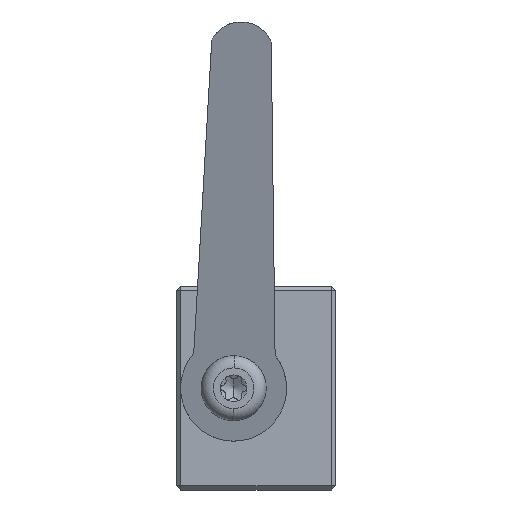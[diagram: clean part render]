
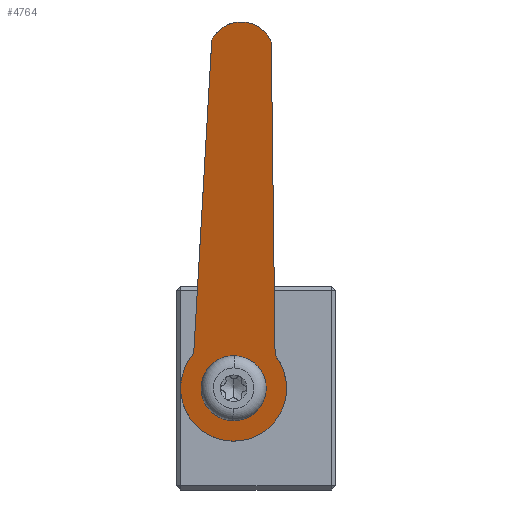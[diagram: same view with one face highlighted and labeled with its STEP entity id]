
A CAD part, left-side view. The second image highlights one B-rep face of the part: STEP entity #4764.
In plain terms, the highlighted planar face has unit normal (-0.966, 0.006, -0.259).
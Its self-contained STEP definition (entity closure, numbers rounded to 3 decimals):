
#2 = CARTESIAN_POINT ( 'NONE',  ( 568.389, 874.78, 1329.316 ) ) ;
#23 =( BOUNDED_CURVE ( )  B_SPLINE_CURVE ( 3, ( #4123, #2109, #1694, #567 ),
 .UNSPECIFIED., .F., .T. ) 
 B_SPLINE_CURVE_WITH_KNOTS ( ( 4, 4 ),
 ( 4.019, 4.712 ),
 .UNSPECIFIED. ) 
 CURVE ( )  GEOMETRIC_REPRESENTATION_ITEM ( )  RATIONAL_B_SPLINE_CURVE ( ( 1., 0.96, 0.96, 1. ) ) 
 REPRESENTATION_ITEM ( '' )  );
#153 = VERTEX_POINT ( 'NONE', #1469 ) ;
#196 = ORIENTED_EDGE ( 'NONE', *, *, #2717, .T. ) ;
#198 = VERTEX_POINT ( 'NONE', #3724 ) ;
#226 = CARTESIAN_POINT ( 'NONE',  ( 578.753, 871.353, 1290.55 ) ) ;
#418 = CARTESIAN_POINT ( 'NONE',  ( 578.739, 872.004, 1290.619 ) ) ;
#421 = AXIS2_PLACEMENT_3D ( 'NONE', #2111, #4925, #2534 ) ;
#443 = ORIENTED_EDGE ( 'NONE', *, *, #3854, .T. ) ;
#535 = CARTESIAN_POINT ( 'NONE',  ( 578.743, 871.569, 1290.591 ) ) ;
#567 = CARTESIAN_POINT ( 'NONE',  ( 579.811, 878.593, 1286.768 ) ) ;
#762 = CARTESIAN_POINT ( 'NONE',  ( 579.811, 878.593, 1286.768 ) ) ;
#768 = CARTESIAN_POINT ( 'NONE',  ( 579.811, 865.596, 1286.472 ) ) ;
#1028 = CARTESIAN_POINT ( 'NONE',  ( 579.053, 879.441, 1289.617 ) ) ;
#1069 = DIRECTION ( 'NONE',  ( 0.259, 0.056, -0.964 ) ) ;
#1094 = CARTESIAN_POINT ( 'NONE',  ( 579.811, 865.596, 1286.472 ) ) ;
#1208 = ORIENTED_EDGE ( 'NONE', *, *, #4897, .F. ) ;
#1210 = CARTESIAN_POINT ( 'NONE',  ( 579.4, 865.561, 1288.004 ) ) ;
#1233 = VERTEX_POINT ( 'NONE', #768 ) ;
#1298 = CARTESIAN_POINT ( 'NONE',  ( 577.731, 867.045, 1294.267 ) ) ;
#1369 = CARTESIAN_POINT ( 'NONE',  ( 567.401, 869.022, 1332.875 ) ) ;
#1393 = CARTESIAN_POINT ( 'NONE',  ( 568.389, 874.78, 1329.316 ) ) ;
#1461 = CARTESIAN_POINT ( 'NONE',  ( 578.753, 872.657, 1290.58 ) ) ;
#1469 = CARTESIAN_POINT ( 'NONE',  ( 578.753, 871.353, 1290.55 ) ) ;
#1488 = EDGE_CURVE ( 'NONE', #3252, #2542, #23, .T. ) ;
#1492 = CARTESIAN_POINT ( 'NONE',  ( 578.698, 876.999, 1290.886 ) ) ;
#1494 = EDGE_CURVE ( 'NONE', #1784, #2045, #4432, .T. ) ;
#1498 =( BOUNDED_CURVE ( )  B_SPLINE_CURVE ( 3, ( #1094, #1210, #2327, #2660 ),
 .UNSPECIFIED., .F., .T. ) 
 B_SPLINE_CURVE_WITH_KNOTS ( ( 4, 4 ),
 ( 1.571, 2.264 ),
 .UNSPECIFIED. ) 
 CURVE ( )  GEOMETRIC_REPRESENTATION_ITEM ( )  RATIONAL_B_SPLINE_CURVE ( ( 1., 0.96, 0.96, 1. ) ) 
 REPRESENTATION_ITEM ( '' )  );
#1661 = ORIENTED_EDGE ( 'NONE', *, *, #1494, .T. ) ;
#1694 = CARTESIAN_POINT ( 'NONE',  ( 579.4, 878.558, 1288.3 ) ) ;
#1784 = VERTEX_POINT ( 'NONE', #3444 ) ;
#1810 =( BOUNDED_CURVE ( )  B_SPLINE_CURVE ( 3, ( #2494, #1369, #2912, #1393 ),
 .UNSPECIFIED., .F., .F. ) 
 B_SPLINE_CURVE_WITH_KNOTS ( ( 4, 4 ),
 ( 1.989, 4.294 ),
 .UNSPECIFIED. ) 
 CURVE ( )  GEOMETRIC_REPRESENTATION_ITEM ( )  RATIONAL_B_SPLINE_CURVE ( ( 1., 0.604, 0.604, 1. ) ) 
 REPRESENTATION_ITEM ( '' )  );
#1870 = CARTESIAN_POINT ( 'NONE',  ( 580.882, 872.186, 1282.621 ) ) ;
#1975 = EDGE_CURVE ( 'NONE', #153, #198, #2293, .T. ) ;
#2007 =( BOUNDED_CURVE ( )  B_SPLINE_CURVE ( 3, ( #3086, #2419, #4767, #3197 ),
 .UNSPECIFIED., .F., .T. ) 
 B_SPLINE_CURVE_WITH_KNOTS ( ( 4, 4 ),
 ( 4.712, 7.854 ),
 .UNSPECIFIED. ) 
 CURVE ( )  GEOMETRIC_REPRESENTATION_ITEM ( )  RATIONAL_B_SPLINE_CURVE ( ( 1., 0.333, 0.333, 1. ) ) 
 REPRESENTATION_ITEM ( '' )  );
#2045 = VERTEX_POINT ( 'NONE', #3978 ) ;
#2060 = DIRECTION ( 'NONE',  ( -0.259, 0.012, 0.966 ) ) ;
#2109 = CARTESIAN_POINT ( 'NONE',  ( 579.014, 878.005, 1289.729 ) ) ;
#2111 = CARTESIAN_POINT ( 'NONE',  ( 582.088, 864.79, 1277.951 ) ) ;
#2118 = ORIENTED_EDGE ( 'NONE', *, *, #1488, .T. ) ;
#2124 = VECTOR ( 'NONE', #1069, 1000. ) ;
#2175 = ORIENTED_EDGE ( 'NONE', *, *, #4825, .F. ) ;
#2188 = ORIENTED_EDGE ( 'NONE', *, *, #2280, .T. ) ;
#2280 = EDGE_CURVE ( 'NONE', #5004, #3252, #5039, .T. ) ;
#2293 =( BOUNDED_CURVE ( )  B_SPLINE_CURVE ( 3, ( #226, #3743, #4256, #1870, #5024, #1028, #1461 ),
 .UNSPECIFIED., .F., .F. ) 
 B_SPLINE_CURVE_WITH_KNOTS ( ( 4, 3, 4 ),
 ( 3.305, 6.283, 9.261 ),
 .UNSPECIFIED. ) 
 CURVE ( )  GEOMETRIC_REPRESENTATION_ITEM ( )  RATIONAL_B_SPLINE_CURVE ( ( 1., 0.388, 0.388, 1., 0.388, 0.388, 1. ) ) 
 REPRESENTATION_ITEM ( '' )  );
#2327 = CARTESIAN_POINT ( 'NONE',  ( 579.014, 866.049, 1289.457 ) ) ;
#2371 = CARTESIAN_POINT ( 'NONE',  ( 578.743, 872.439, 1290.611 ) ) ;
#2419 = CARTESIAN_POINT ( 'NONE',  ( 583.294, 878.889, 1273.771 ) ) ;
#2462 = ORIENTED_EDGE ( 'NONE', *, *, #4539, .T. ) ;
#2494 = CARTESIAN_POINT ( 'NONE',  ( 568.389, 867.469, 1329.149 ) ) ;
#2534 = DIRECTION ( 'NONE',  ( 0., -1., -0.023 ) ) ;
#2542 = VERTEX_POINT ( 'NONE', #762 ) ;
#2638 = FACE_OUTER_BOUND ( 'NONE', #4460, .T. ) ;
#2660 = CARTESIAN_POINT ( 'NONE',  ( 578.698, 867.001, 1290.658 ) ) ;
#2663 = FACE_BOUND ( 'NONE', #4943, .T. ) ;
#2717 = EDGE_CURVE ( 'NONE', #1233, #1784, #1498, .T. ) ;
#2912 = CARTESIAN_POINT ( 'NONE',  ( 567.401, 873.058, 1332.967 ) ) ;
#3086 = CARTESIAN_POINT ( 'NONE',  ( 579.811, 878.593, 1286.768 ) ) ;
#3133 = VECTOR ( 'NONE', #2060, 1000. ) ;
#3197 = CARTESIAN_POINT ( 'NONE',  ( 579.811, 865.596, 1286.472 ) ) ;
#3206 = CARTESIAN_POINT ( 'NONE',  ( 578.753, 872.657, 1290.58 ) ) ;
#3220 = VERTEX_POINT ( 'NONE', #3920 ) ;
#3252 = VERTEX_POINT ( 'NONE', #1492 ) ;
#3368 = CARTESIAN_POINT ( 'NONE',  ( 578.739, 871.787, 1290.614 ) ) ;
#3444 = CARTESIAN_POINT ( 'NONE',  ( 578.698, 867.001, 1290.658 ) ) ;
#3513 = CARTESIAN_POINT ( 'NONE',  ( 578.739, 872.22, 1290.624 ) ) ;
#3724 = CARTESIAN_POINT ( 'NONE',  ( 578.753, 872.657, 1290.58 ) ) ;
#3743 = CARTESIAN_POINT ( 'NONE',  ( 579.053, 864.62, 1289.279 ) ) ;
#3854 = EDGE_CURVE ( 'NONE', #2542, #1233, #2007, .T. ) ;
#3920 = CARTESIAN_POINT ( 'NONE',  ( 578.739, 872.004, 1290.619 ) ) ;
#3978 = CARTESIAN_POINT ( 'NONE',  ( 568.389, 867.469, 1329.149 ) ) ;
#4123 = CARTESIAN_POINT ( 'NONE',  ( 578.698, 876.999, 1290.886 ) ) ;
#4256 = CARTESIAN_POINT ( 'NONE',  ( 580.882, 865.336, 1282.465 ) ) ;
#4319 = PLANE ( 'NONE',  #421 ) ;
#4432 = LINE ( 'NONE', #1298, #3133 ) ;
#4460 = EDGE_LOOP ( 'NONE', ( #2462, #2188, #2118, #443, #196, #1661 ) ) ;
#4524 = CARTESIAN_POINT ( 'NONE',  ( 578.739, 872.004, 1290.619 ) ) ;
#4539 = EDGE_CURVE ( 'NONE', #2045, #5004, #1810, .T. ) ;
#4547 = CARTESIAN_POINT ( 'NONE',  ( 578.753, 871.353, 1290.55 ) ) ;
#4595 = B_SPLINE_CURVE_WITH_KNOTS ( 'NONE', 3,
 ( #4547, #535, #3368, #4524 ),
 .UNSPECIFIED., .F., .F.,
 ( 4, 4 ),
 ( 0., 1. ),
 .UNSPECIFIED. ) ;
#4644 = CARTESIAN_POINT ( 'NONE',  ( 568.113, 874.72, 1330.348 ) ) ;
#4764 = ADVANCED_FACE ( 'NONE', ( #2663, #2638 ), #4319, .T. ) ;
#4767 = CARTESIAN_POINT ( 'NONE',  ( 583.294, 865.892, 1273.475 ) ) ;
#4820 = ORIENTED_EDGE ( 'NONE', *, *, #1975, .T. ) ;
#4825 = EDGE_CURVE ( 'NONE', #153, #3220, #4595, .T. ) ;
#4897 = EDGE_CURVE ( 'NONE', #3220, #198, #5093, .T. ) ;
#4925 = DIRECTION ( 'NONE',  ( -0.966, 0.006, -0.259 ) ) ;
#4943 = EDGE_LOOP ( 'NONE', ( #2175, #4820, #1208 ) ) ;
#5004 = VERTEX_POINT ( 'NONE', #2 ) ;
#5024 = CARTESIAN_POINT ( 'NONE',  ( 580.882, 879.036, 1282.777 ) ) ;
#5039 = LINE ( 'NONE', #4644, #2124 ) ;
#5093 = B_SPLINE_CURVE_WITH_KNOTS ( 'NONE', 3,
 ( #418, #3513, #2371, #3206 ),
 .UNSPECIFIED., .F., .F.,
 ( 4, 4 ),
 ( 0., 1. ),
 .UNSPECIFIED. ) ;
